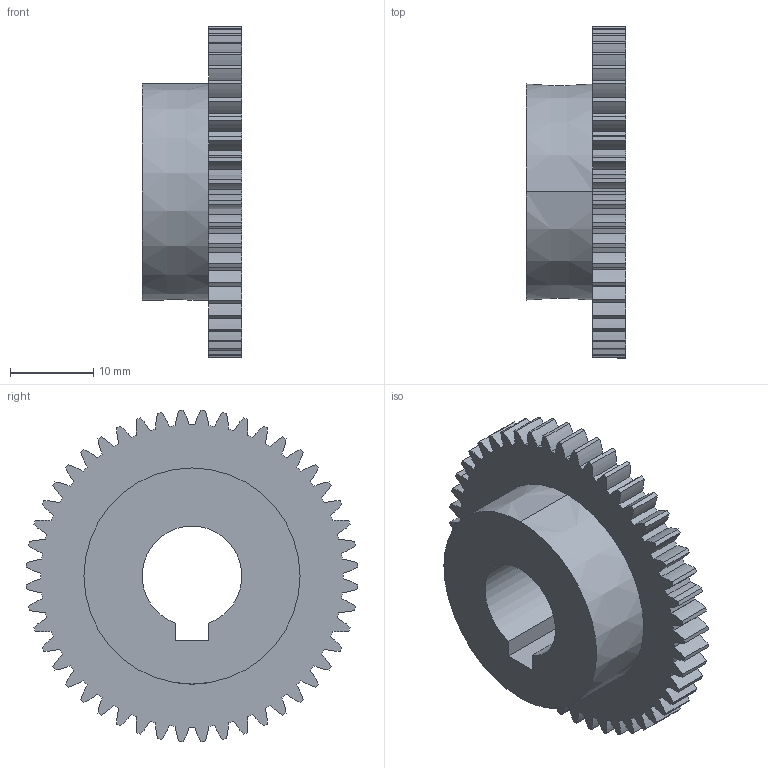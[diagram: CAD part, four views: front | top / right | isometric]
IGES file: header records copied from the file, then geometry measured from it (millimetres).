
Start section: 3D InterOp IGES (v. 2020 1.0.1), Spatial Corp. Copyright (c) 1999-2017.
Global section: file name: ssp08_w4_t48_bk.igs; native system: Spatial Corp.; preprocessor: 3D InterOp ACIS/IGES; author: TraceParts; organization: TraceParts S.A.; date: 20220624.032405; units: millimetre
Bounding box: 12 x 39.94 x 39.94 mm (x, y, z)
Surface area: 4174.4 mm2 (no closed solid volume)
Topology: 0 solids, 0 shells, 222 faces, 1304 edges, 1304 vertices
Faces by surface type: revolution 208, extrusion 14
